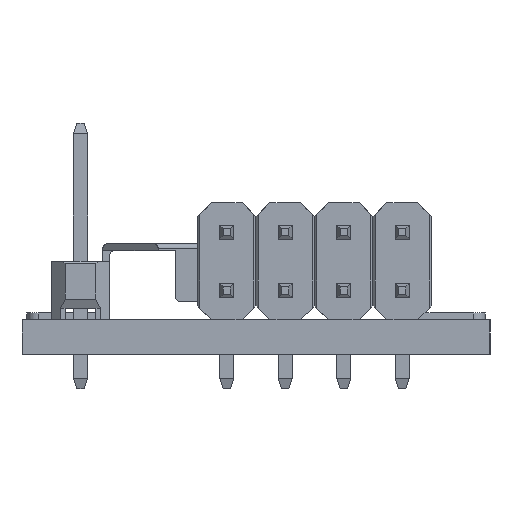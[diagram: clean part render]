
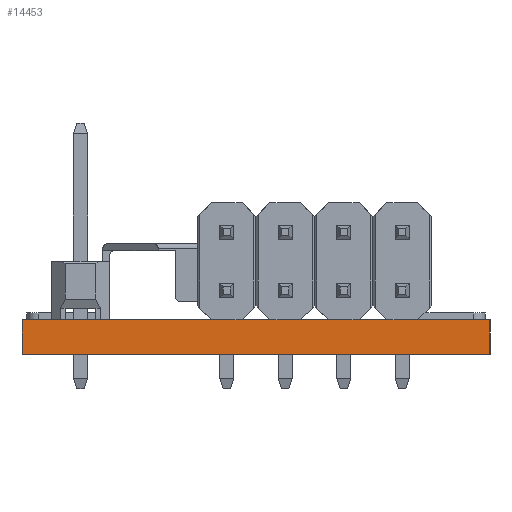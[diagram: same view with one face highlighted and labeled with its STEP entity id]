
A CAD part, left-side view. The second image highlights one B-rep face of the part: STEP entity #14453.
In plain terms, the highlighted planar face has unit normal (-1, 0, 0).
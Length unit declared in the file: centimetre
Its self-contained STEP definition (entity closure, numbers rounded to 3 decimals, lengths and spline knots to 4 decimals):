
#1155=AXIS2_PLACEMENT_3D('',#17117,#5003,$);
#1701=PLANE('',#1155);
#2283=VECTOR('',#4898,1.);
#2312=VECTOR('',#4993,1.);
#2316=VECTOR('',#4998,1.);
#2318=VECTOR('',#5002,1.);
#3496=LINE('',#16996,#2283);
#3525=LINE('',#17105,#2312);
#3529=LINE('',#17112,#2316);
#3531=LINE('',#17116,#2318);
#4898=DIRECTION('',(0.,-1.,0.));
#4993=DIRECTION('',(0.,1.,0.));
#4998=DIRECTION('',(0.,0.,1.));
#5002=DIRECTION('',(0.,0.,1.));
#5003=DIRECTION('',(-1.,0.,0.));
#6859=VERTEX_POINT('',#16997);
#6860=VERTEX_POINT('',#16998);
#6895=VERTEX_POINT('',#17103);
#6897=VERTEX_POINT('',#17106);
#8318=EDGE_CURVE('',#6859,#6860,#3496,.T.);
#8363=EDGE_CURVE('',#6897,#6895,#3525,.T.);
#8367=EDGE_CURVE('',#6859,#6895,#3529,.T.);
#8369=EDGE_CURVE('',#6860,#6897,#3531,.T.);
#10605=ORIENTED_EDGE('',*,*,#8363,.T.);
#10606=ORIENTED_EDGE('',*,*,#8367,.F.);
#10607=ORIENTED_EDGE('',*,*,#8318,.T.);
#10608=ORIENTED_EDGE('',*,*,#8369,.T.);
#13003=EDGE_LOOP('',(#10605,#10606,#10607,#10608));
#13767=FACE_BOUND('',#13003,.T.);
#14453=ADVANCED_FACE('',(#13767),#1701,.T.);
#16996=CARTESIAN_POINT('',(-1.651,1.016,-0.075));
#16997=CARTESIAN_POINT('',(-1.651,1.016,-0.075));
#16998=CARTESIAN_POINT('',(-1.651,-1.016,-0.075));
#17103=CARTESIAN_POINT('',(-1.651,1.016,0.075));
#17105=CARTESIAN_POINT('',(-1.651,1.016,0.075));
#17106=CARTESIAN_POINT('',(-1.651,-1.016,0.075));
#17112=CARTESIAN_POINT('',(-1.651,1.016,-0.075));
#17116=CARTESIAN_POINT('',(-1.651,-1.016,-0.075));
#17117=CARTESIAN_POINT('',(-1.651,0.,-0.075));
